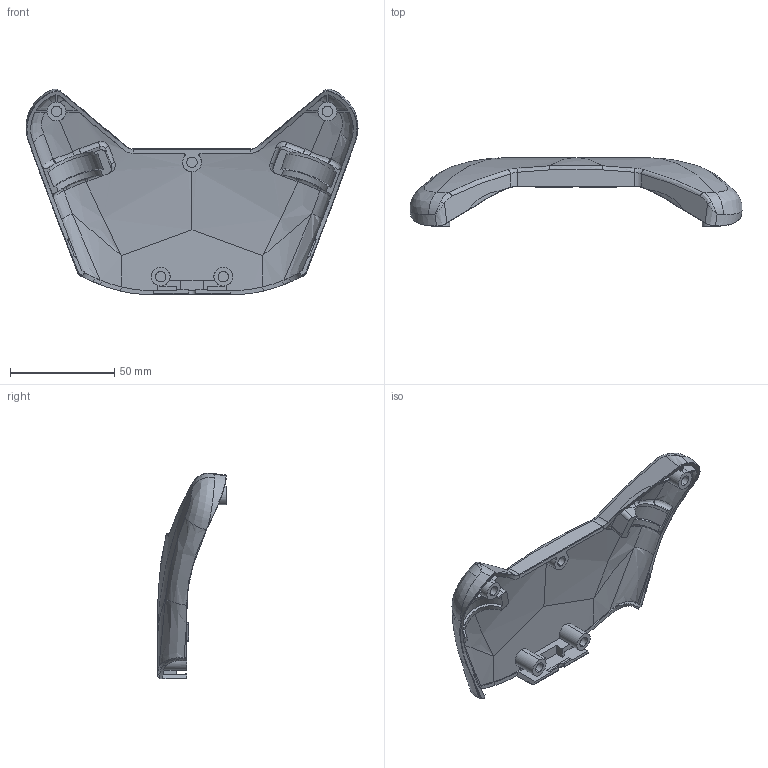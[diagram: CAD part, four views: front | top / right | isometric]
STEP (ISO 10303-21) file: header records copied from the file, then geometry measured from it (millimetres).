
FILE_DESCRIPTION (( 'STEP AP214' ), '1' );
FILE_NAME ('Controller Housing Top - Blank.STEP', '2024-12-19T22:05:01', ( '' ), ( '' ), 'SwSTEP 2.0', 'SolidWorks 2022', '' );
FILE_SCHEMA (( 'AUTOMOTIVE_DESIGN' ));
Length unit declared in the file: millimetre
Products named in the file (1): Controller Housing Top - Blank
Bounding box: 159.35 x 32.92 x 98.71 mm (x, y, z)
Volume: 34308.1 mm3; surface area: 31898.5 mm2
Topology: 1 solids, 1 shells, 307 faces, 822 edges, 508 vertices
Faces by surface type: bspline 139, plane 101, cylinder 61, cone 6
Entity records: 36435 total; most frequent: CARTESIAN_POINT 30174, ORIENTED_EDGE 1596, DIRECTION 836, EDGE_CURVE 798, VERTEX_POINT 500, B_SPLINE_CURVE_WITH_KNOTS 397, EDGE_LOOP 314, FACE_OUTER_BOUND 307
